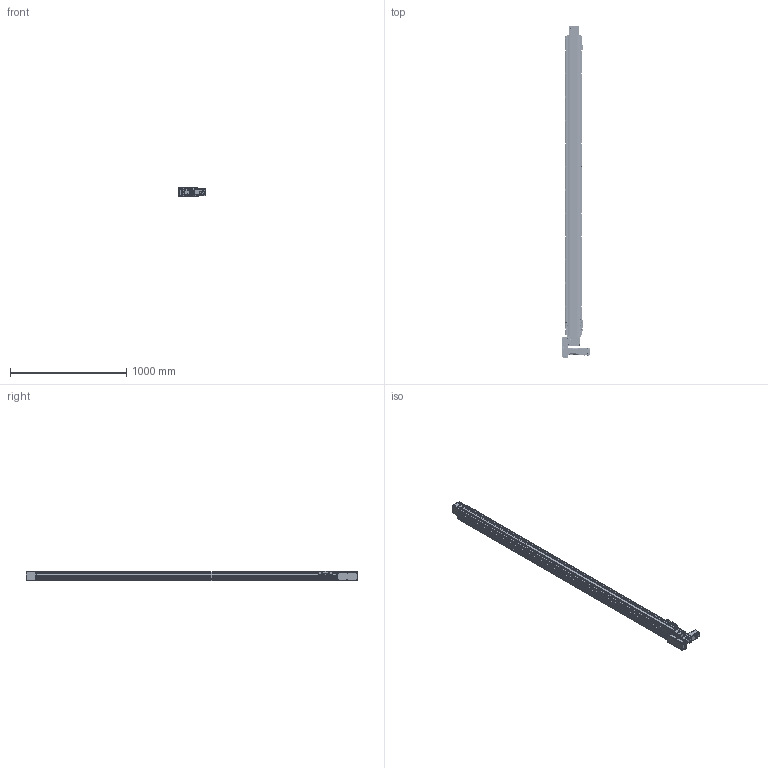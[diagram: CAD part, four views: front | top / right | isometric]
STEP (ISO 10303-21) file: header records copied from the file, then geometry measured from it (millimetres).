
FILE_DESCRIPTION(/* description */ (''),/* implementation_level */ '2;1');
FILE_NAME(/* name */ '\\192.168.0.160\disk1\HAN SHIN Master\B-설계부문\C-표준\B-2024년\BC02-표준도면\+로봇 개선표준도면\홈페이지 표준 도면\홈페이지 최종 작업 폴더\3D\HSB\HSB125\HSB125-L4G-N-2400-R.stp',/* time_stamp */ '2025-01-10T19:50:44+09:00',/* author */ ('user'),/* organization */ (''),/* preprocessor_version */ 'ST-DEVELOPER v18.1',/* originating_system */ 'Autodesk Inventor 2022',/* authorisation */ '');
FILE_SCHEMA (('AUTOMOTIVE_DESIGN { 1 0 10303 214 3 1 1 }'));
Products named in the file (32): HSB125-L4G-N-0500-R; BASE; REAR COVER; HSB125 FORNT HOUSUNG (Connecting); HSB160 SHAFT-1; HSB160 BEARING OVER; NSK_6205; HSB160 REAR SHAFT-2; REAR SHAFT--2; HSB125 REAR HOUSUNG; TENSION PLATE; HSB160 ARC COVER; UPCOVER; hsr_ftht_A-M6F_grease_nipple_joint; HR120 SENSOR DOG; NIPPLE CAP(신규); 6003ZZ; HSB125 TABLE (TEST); HG90STOPPER - 17L; HSB125 END COVER; SIDE COVER; SENSOR BRK(EE-SX674A); EE_SX674A; PGX62-H-1_3; hg-kr43_; HSB125 L; HR120 LR MOTOR PLATE (400W)-사출; MOTOR PLATE - 200W; HR120 LR BELT COVER; HR160 ACRYL COVER - 1; HR160 ACRYL COVER - 1_1; HR160 ACRYL COVER - 1_2
Assembly tree (53 placements, depth 3):
  HSB125-L4G-N-0500-R
    BASE
    REAR COVER  x2
    HSB125 FORNT HOUSUNG (Connecting)
    HSB160 SHAFT-1
    HSB160 BEARING OVER
    NSK_6205  x2
    HSB160 REAR SHAFT-2
    REAR SHAFT--2
    HSB125 REAR HOUSUNG
    TENSION PLATE  x2
    HSB160 ARC COVER  x4
    HG90STOPPER - 17L  x4
    UPCOVER
    NIPPLE CAP(신규)  x4
    hsr_ftht_A-M6F_grease_nipple_joint  x4
    SENSOR BRK(EE-SX674A)  x3
    EE_SX674A  x3
    HR120 SENSOR DOG
    6003ZZ  x2
    HSB125 TABLE (TEST)
    HSB125 END COVER
    SIDE COVER  x2
    PGX62-H-1_3
    hg-kr43_
    HSB125 L
      HR120 LR MOTOR PLATE (400W)-사출
      MOTOR PLATE - 200W
      HR120 LR BELT COVER
      HR160 ACRYL COVER - 1
      HR160 ACRYL COVER - 1_1
      HR160 ACRYL COVER - 1_2  x2
Bounding box: 233.3 x 2854.5 x 85 mm (x, y, z)
Volume: 9151556.3 mm3; surface area: 3168527.2 mm2
Topology: 117 solids, 117 shells, 6949 faces, 19439 edges, 12796 vertices
Faces by surface type: plane 4995, cylinder 1429, cone 365, sphere 72, torus 61, bspline 27
Full cylindrical faces by diameter (mm): 2.459 x74, 3 x20, 3.242 x60, 3.3 x5, 3.4 x40, 3.5 x6, 4 x9, 4.134 x38, 4.2 x10, 4.5 x37, 4.917 x36, 5 x20, 5.5 x55, 5.6 x4, 5.8 x4, 5.9 x8, 6 x12, 6.5 x8, 6.647 x28, 7 x1, 7.5 x24, 8 x4, 8.5 x4, 9 x4, 9.2 x4, 9.5 x27, 12 x2, 14 x1, 14.2 x1, 15 x4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
Entity records: 161022 total; most frequent: CARTESIAN_POINT 31966, ORIENTED_EDGE 26758, DIRECTION 25821, EDGE_CURVE 13379, LINE 9811, VECTOR 9811, VERTEX_POINT 8897, AXIS2_PLACEMENT_3D 8005
